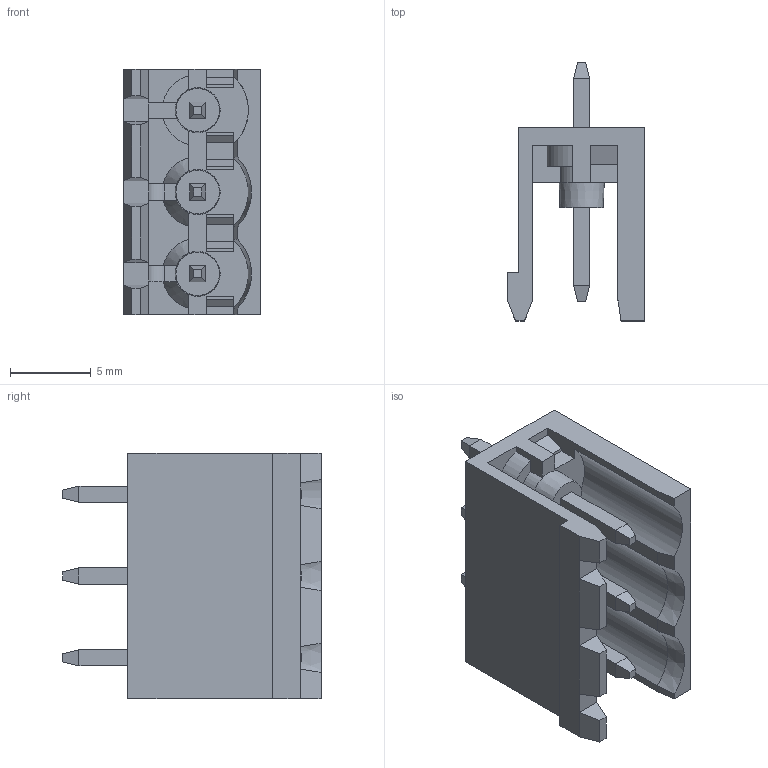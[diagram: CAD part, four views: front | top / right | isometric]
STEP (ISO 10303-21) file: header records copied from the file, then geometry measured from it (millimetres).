
FILE_DESCRIPTION (( 'STEP AP203' ), '1' );
FILE_NAME ('BR8MC1-03.STEP', '2020-03-18T02:39:21', ( '' ), ( '' ), 'SwSTEP 2.0', 'SolidWorks 2019', '' );
FILE_SCHEMA (( 'CONFIG_CONTROL_DESIGN' ));
Length unit declared in the file: millimetre
Products named in the file (1): BR8MC1-03
Bounding box: 8.5 x 16.03 x 15.24 mm (x, y, z)
Volume: 580.6 mm3; surface area: 1346.1 mm2
Topology: 1 solids, 1 shells, 268 faces, 702 edges, 436 vertices
Faces by surface type: plane 234, cylinder 16, cone 12, sphere 6
Entity records: 8048 total; most frequent: CARTESIAN_POINT 1495, ORIENTED_EDGE 1380, DIRECTION 1265, EDGE_CURVE 690, LINE 601, VECTOR 601, VERTEX_POINT 430, AXIS2_PLACEMENT_3D 332
